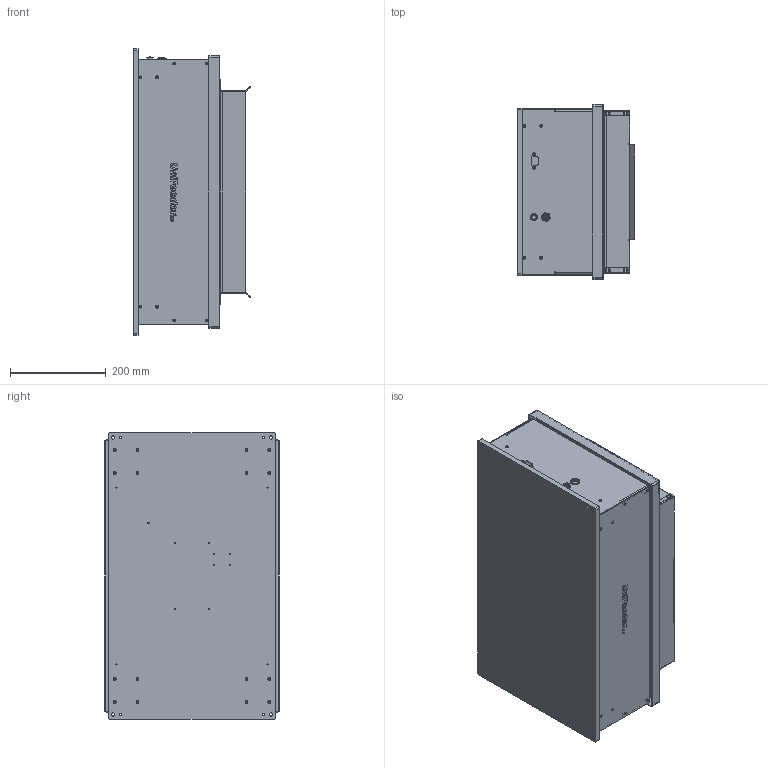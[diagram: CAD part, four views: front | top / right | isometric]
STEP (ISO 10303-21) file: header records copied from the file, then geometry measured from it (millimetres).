
FILE_DESCRIPTION(/* description */ ('Unifeeder5.0'),/* implementation_level */ '2;1');
FILE_NAME(/* name */ 'Unifeeder5.0(share).stp',/* time_stamp */ '2025-08-09T22:39:49+09:00',/* author */ ('houns'),/* organization */ (''),/* preprocessor_version */ 'ST-DEVELOPER v20',/* originating_system */ 'Autodesk Inventor 2024',/* authorisation */ '');
FILE_SCHEMA (('AUTOMOTIVE_DESIGN { 1 0 10303 214 3 1 1 }'));
Length unit declared in the file: millimetre
Products named in the file (12): Unifeeder5.0(share); Uni5-02; C-DD2530-6; Uni5-04; Basket ; Uni5-12; Uni5-13; Uni5-08-1; Side COVER; Uni5-10; PRC커넥터2; 파워버튼
Assembly tree (14 placements, depth 2):
  Unifeeder5.0(share)
    Uni5-02
    C-DD2530-6
    Uni5-04
    Basket 
    Uni5-12  x2
    Uni5-13  x2
    Uni5-08-1  x2
    Side COVER
    Uni5-10
    PRC커넥터2
    파워버튼
Bounding box: 246.11 x 366 x 600 mm (x, y, z)
Volume: 3752013.4 mm3; surface area: 1775974.5 mm2
Topology: 14 solids, 14 shells, 992 faces, 2497 edges, 1601 vertices
Faces by surface type: plane 505, cylinder 289, bspline 154, cone 44
Full cylindrical faces by diameter (mm): 1 x2, 2.459 x37, 3.242 x12, 3.3 x42, 4.134 x4, 4.4 x12, 4.917 x6, 5 x12, 5.5 x4, 6 x16, 6.6 x8, 9 x1, 11 x6, 12 x1, 13 x2, 15 x2, 16 x1, 25 x1
Entity records: 21036 total; most frequent: CARTESIAN_POINT 4373, ORIENTED_EDGE 3282, DIRECTION 3206, EDGE_CURVE 1641, AXIS2_PLACEMENT_3D 1109, VERTEX_POINT 1052, LINE 988, VECTOR 988
